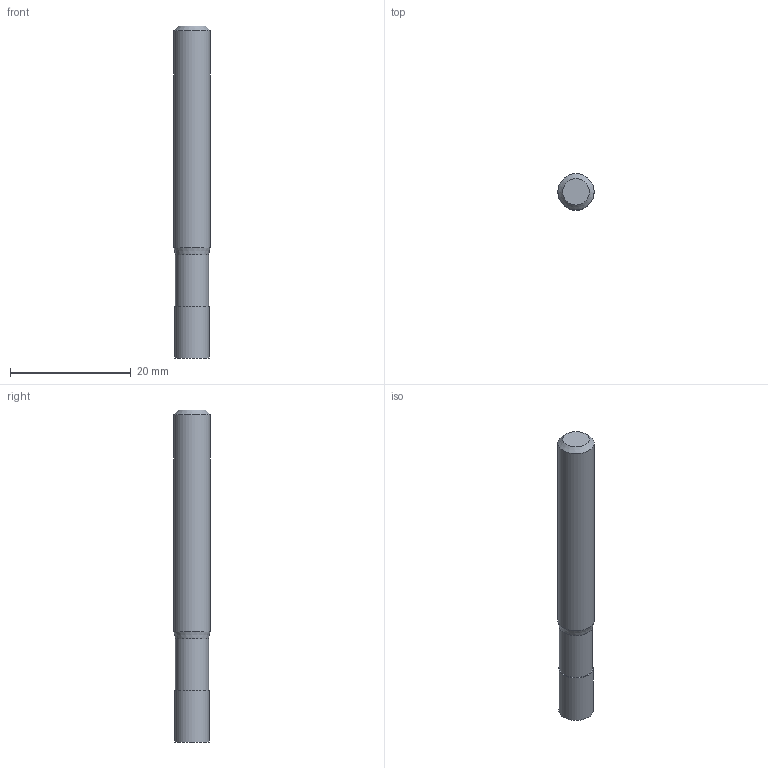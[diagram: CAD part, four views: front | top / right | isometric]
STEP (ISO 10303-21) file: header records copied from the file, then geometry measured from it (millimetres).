
FILE_DESCRIPTION((''),'2;1');
FILE_NAME('C:\Users\nsx150\AppData\Local\Temp\Mastercam 2021\EUJSUNXURU\TEMP.step','2021-04-22T10:28:43',(''),(''),'STEP Write','Mastercam 2021 ... CNC Software, Inc.','');
FILE_SCHEMA(('AUTOMOTIVE_DESIGN'));
Length unit declared in the file: millimetre
Products named in the file (1): None
Bounding box: 6 x 6 x 55 mm (x, y, z)
Volume: 1484.8 mm3; surface area: 1108.2 mm2
Topology: 2 solids, 2 shells, 9 faces, 12 edges, 7 vertices
Faces by surface type: plane 4, cylinder 3, cone 2
Full cylindrical faces by diameter (mm): 5.5 x1, 5.7 x1, 6 x1
Entity records: 211 total; most frequent: DIRECTION 36, CARTESIAN_POINT 25, AXIS2_PLACEMENT_3D 18, ORIENTED_EDGE 14, EDGE_LOOP 14, STYLED_ITEM 12, ADVANCED_FACE 9, FACE_BOUND 8
